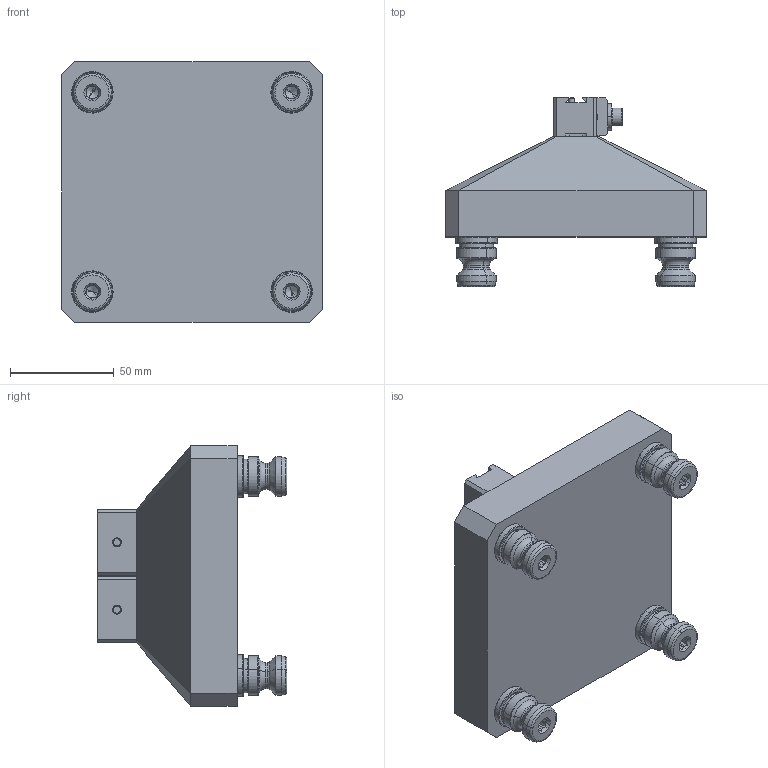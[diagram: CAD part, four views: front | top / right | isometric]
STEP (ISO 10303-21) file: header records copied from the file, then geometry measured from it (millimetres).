
FILE_DESCRIPTION (( 'STEP AP214' ), '1' );
FILE_NAME ('R96-DM12X2.STEP', '2018-01-22T21:16:42', ( '' ), ( '' ), 'SwSTEP 2.0', 'SolidWorks 2017', '' );
FILE_SCHEMA (( 'AUTOMOTIVE_DESIGN' ));
Length unit declared in the file: inch
Products named in the file (10): CLW10M_CLW10; HW.0203X0500.FW_DEFAULT; PS20F; R96-DM12; 91290A242_BLACK-OXIDE CLASS 12.9 SOCKET HEAD CAP SCREW_91290A242; DM12-1_D051251WM; R96-DM12X2; DM12; 91595A100_METRIC ALLOY STEEL DOWEL PIN_91595A100; 91595A108_METRIC ALLOY STEEL DOWEL PIN_91595A108
Assembly tree (14 placements, depth 3):
  R96-DM12X2
    R96-DM12
    DM12  x2
      DM12-1_D051251WM
      CLW10M_CLW10
      HW.0203X0500.FW_DEFAULT
      91595A100_METRIC ALLOY STEEL DOWEL PIN_91595A100
      91595A108_METRIC ALLOY STEEL DOWEL PIN_91595A108
      91290A242_BLACK-OXIDE CLASS 12.9 SOCKET HEAD CAP SCREW_91290A242
    PS20F  x4
Bounding box: 125.73 x 91.4 x 125.73 mm (x, y, z)
Volume: 582944.4 mm3; surface area: 74807.2 mm2
Topology: 19 solids, 19 shells, 1860 faces, 4742 edges, 3048 vertices
Faces by surface type: plane 858, cylinder 418, bspline 296, cone 160, torus 104, sphere 24
Entity records: 46490 total; most frequent: CARTESIAN_POINT 17449, ORIENTED_EDGE 5792, DIRECTION 4397, EDGE_CURVE 2896, VERTEX_POINT 1895, VECTOR 1847, LINE 1847, AXIS2_PLACEMENT_3D 1275
